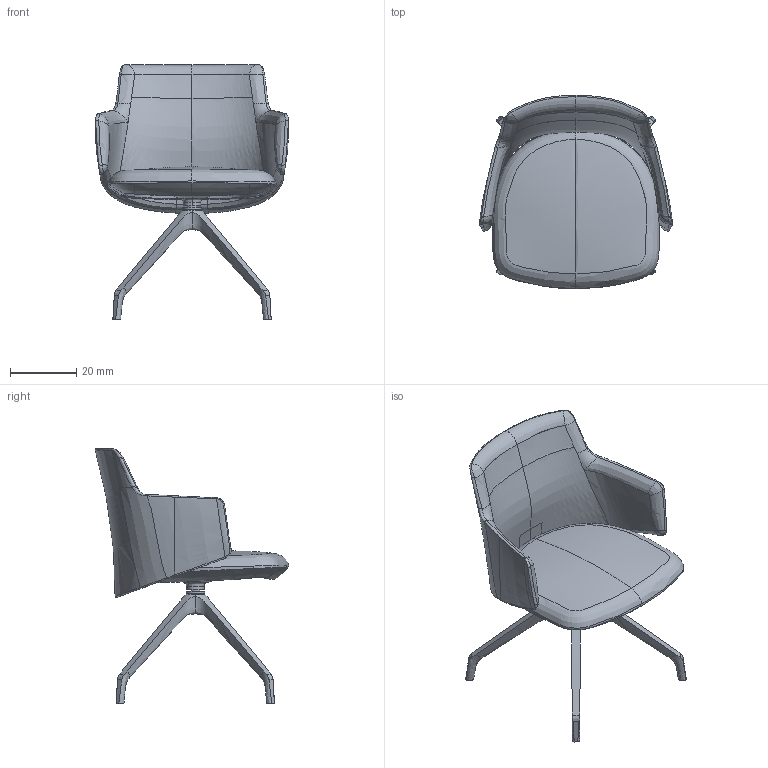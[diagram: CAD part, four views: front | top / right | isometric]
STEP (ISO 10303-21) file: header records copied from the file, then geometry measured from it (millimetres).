
FILE_DESCRIPTION(/* description */ (''),/* implementation_level */ '2;1');
FILE_NAME(/* name */ 'MELODY~1',/* time_stamp */ '2019-06-24T11:00:52+02:00',/* author */ (''),/* organization */ (''),/* preprocessor_version */ 'ST-DEVELOPER v15',/* originating_system */ '',/* authorisation */ '');
FILE_SCHEMA (('AUTOMOTIVE_DESIGN'));
Length unit declared in the file: millimetre
Products named in the file (1): Document
Bounding box: 58.39 x 58.53 x 76.99 mm (x, y, z)
Volume: 1335 mm3; surface area: 15977.7 mm2
Topology: 1 solids, 6 shells, 202 faces, 578 edges, 338 vertices
Faces by surface type: bspline 190, plane 12
Entity records: 64433 total; most frequent: CARTESIAN_POINT 61152, ORIENTED_EDGE 1029, EDGE_CURVE 569, B_SPLINE_CURVE_WITH_KNOTS 480, VERTEX_POINT 336, ADVANCED_FACE 202, FACE_OUTER_BOUND 202, EDGE_LOOP 202
